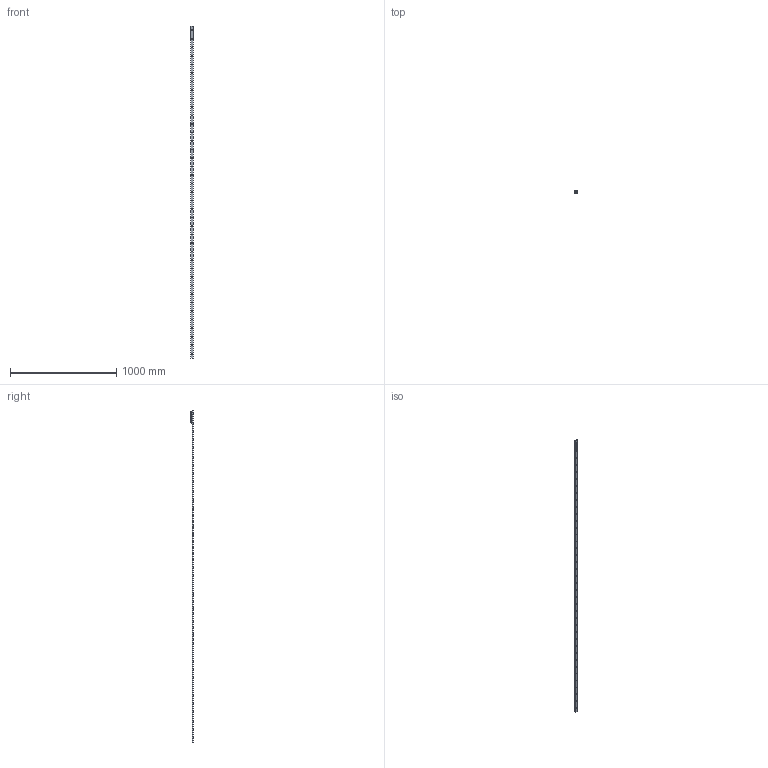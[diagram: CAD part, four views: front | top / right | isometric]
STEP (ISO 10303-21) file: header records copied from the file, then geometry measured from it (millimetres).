
FILE_DESCRIPTION( ( 'STEP AP214' ), '1' );
FILE_NAME( 'p:/temp/worker_36/temp/exporttempdir_4476_59_qHA0W/format_2/TGV-03120_1_RV28G-3.stp', '2020-11-20T16:43:36', ( 'License CC BY-ND 4.0' ), ( 'CADENAS' ), ' ', 'PARTsolutions', ' ' );
FILE_SCHEMA( ( 'AUTOMOTIVE_DESIGN { 1 0 10303 214 1 1 1 1 }' ) );
Length unit declared in the file: millimetre
Products named in the file (6): TGV-03120/1/RV28G-3; _TGV28-3120-(3-1); _RV28G-3-slider; _RGNV28R; _RGAV28R; _WR28G-01
Assembly tree (7 placements, depth 2):
  TGV-03120/1/RV28G-3
    _TGV28-3120-(3-1)
    _RV28G-3-slider
    _RGNV28R  x2
    _RGAV28R
    _WR28G-01  x2
Bounding box: 28 x 24 x 3120 mm (x, y, z)
Volume: 486953.2 mm3; surface area: 313377.1 mm2
Topology: 7 solids, 7 shells, 1090 faces, 2840 edges, 1846 vertices
Faces by surface type: plane 657, cylinder 319, cone 79, bspline 26, torus 9
Full cylindrical faces by diameter (mm): 1.27 x4, 2 x2, 2.5 x6, 4 x4, 4.134 x4, 4.2 x3, 5 x3, 5.5 x3, 5.75 x39, 7 x5, 7.5 x1, 8 x6, 10.8 x3, 17 x3, 20.75 x6
Entity records: 26781 total; most frequent: CARTESIAN_POINT 4187, DIRECTION 3590, ORIENTED_EDGE 3228, EDGE_CURVE 1614, AXIS2_PLACEMENT_3D 1400, VERTEX_POINT 1146, EDGE_LOOP 1025, FACE_OUTER_BOUND 798
